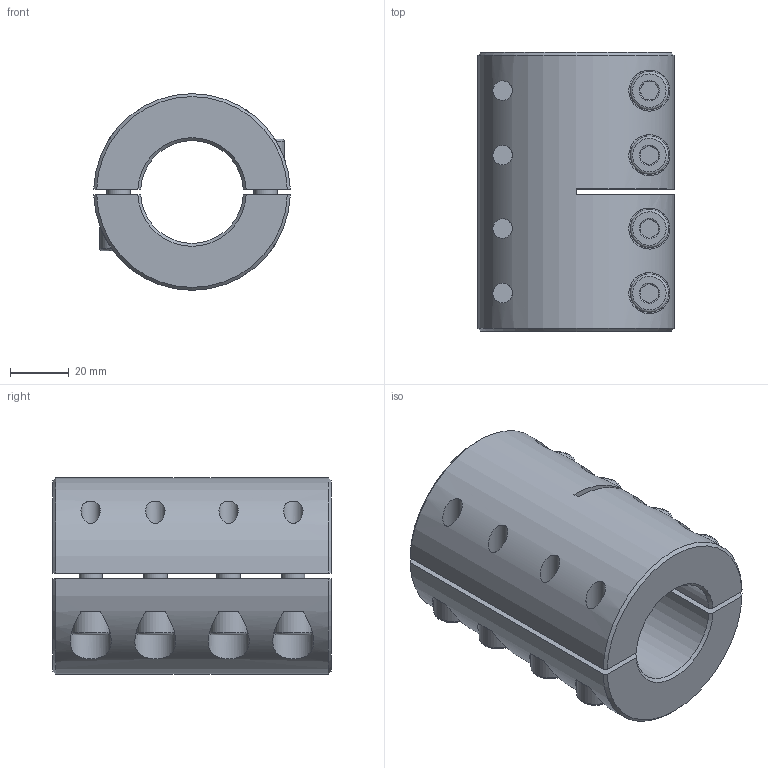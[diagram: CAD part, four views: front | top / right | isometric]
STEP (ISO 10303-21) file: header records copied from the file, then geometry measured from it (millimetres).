
FILE_DESCRIPTION( ( 'Unknown' ), '1' );
FILE_NAME( 'K:/Konstruktion/Fertigungszeichnungen/Schalenkupplung/KBST-G/KBST-G-35.stp', 'Unknown', ( 'Unknown' ), ( 'Unknown' ), 'PSStep 16.0.42', 'Unknown', ' ' );
FILE_SCHEMA( ( 'AUTOMOTIVE_DESIGN { 1 0 10303 214 1 1 1 1 }' ) );
Length unit declared in the file: millimetre
Products named in the file (4): Assem1; ISO EN DIN 4762 M8x25; KBST-G-35
Assembly tree (10 placements, depth 2):
  Assem1
    ISO EN DIN 4762 M8x25  x8
    KBST-G-35
    KBST-G-35
Bounding box: 66.97 x 95 x 67 mm (x, y, z)
Volume: 228640.2 mm3; surface area: 59760.2 mm2
Topology: 10 solids, 10 shells, 260 faces, 496 edges, 296 vertices
Faces by surface type: plane 120, cone 64, cylinder 60, torus 16
Full cylindrical faces by diameter (mm): 6.647 x8, 7 x8, 8 x16, 8.5 x8, 13 x8
Entity records: 4330 total; most frequent: CARTESIAN_POINT 1696, DIRECTION 390, ORIENTED_EDGE 326, AXIS2_PLACEMENT_3D 169, EDGE_CURVE 163, EDGE_LOOP 152, VERTEX_POINT 119, FACE_OUTER_BOUND 107
